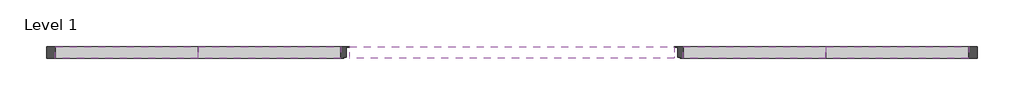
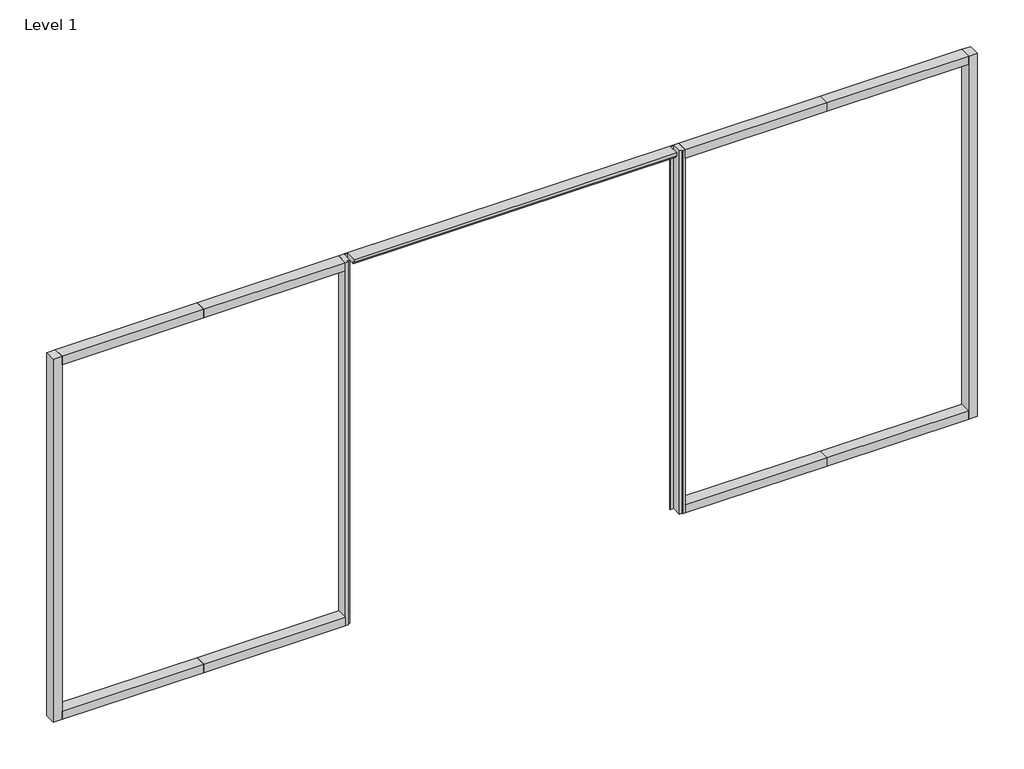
# One storey, incomplete: 13 members.
"""IFC4 building model written with IfcOpenShell, lengths in millimetres."""

from ifc_helpers import new_model, si_unit, origin, place, context, project, spatial, transform, mapped, element, save
from components import rectangular_mullion_801593ba, rectangular_mullion_9e581753, rectangular_mullion_f07b3b6d, rectangular_mullion_19f6ccb2, rectangular_mullion_ab93fa10

model = new_model("IFC4")

# Units and contexts
model_context = context("Model", 3, world=origin())
ifc_project = project(units=[si_unit("LENGTHUNIT", "METRE", prefix="MILLI")], contexts=[model_context])

# Site, building, storey
site = spatial("IfcSite", under=ifc_project)
building = spatial("IfcBuilding", under=site)
storey = spatial("IfcBuildingStorey", under=building, Name="Level 1", Elevation=0.0)

# Members
placement = place(None, origin())
rectangular_mullion_shape = rectangular_mullion_801593ba(model_context)
element("IfcMember", 1, ObjectType="Rectangular Mullion : MCGRORY - Forster Fuego Light - 60 Min Rated - Side Mullion B", at=placement, inside=storey, context=model_context, shape_type="MappedRepresentation", body=[
    mapped(rectangular_mullion_shape, transform((11331.7627373, 2096.1630076, 0.0), x_axis=(0.0, 0.0, -1.0), y_axis=(0.0, 1.0, 0.0), z_axis=(1.0, 0.0, 0.0))),
])
element("IfcMember", 2, ObjectType="Rectangular Mullion : MCGRORY - Forster Fuego Light - 60 Min Rated - Side Mullion B", at=placement, inside=storey, context=model_context, shape_type="MappedRepresentation", body=[
    mapped(rectangular_mullion_shape, transform((7818.7539884, 2096.1630076, 0.0), x_axis=(0.0, 0.0, -1.0), y_axis=(0.0, 1.0, 0.0), z_axis=(1.0, 0.0, 0.0))),
])
element("IfcMember", 3, ObjectType="Rectangular Mullion : MCGRORY - Forster Fuego Light - 60 Min Rated - Side Mullion B", at=placement, inside=storey, context=model_context, shape_type="MappedRepresentation", body=[
    mapped(rectangular_mullion_shape, transform((10533.7452395, 2096.1630076, 0.0), x_axis=(0.0, 0.0, -1.0), y_axis=(0.0, 1.0, 0.0), z_axis=(1.0, 0.0, 0.0))),
])
element("IfcMember", 4, ObjectType="Rectangular Mullion : MCGRORY - Forster Fuego Light - 60 Min Rated - Side Mullion B", at=placement, inside=storey, context=model_context, shape_type="MappedRepresentation", body=[
    mapped(rectangular_mullion_shape, transform((7020.7364906, 2096.1630076, 0.0), x_axis=(0.0, 0.0, -1.0), y_axis=(0.0, 1.0, 0.0), z_axis=(1.0, 0.0, 0.0))),
])
element("IfcMember", 5, ObjectType="Rectangular Mullion : MCGRORY - Forster Fuego Light - 60 Min Rated - Side Mullion A", at=placement, inside=storey, context=model_context, shape_type="MappedRepresentation", body=[
    mapped(rectangular_mullion_shape, transform((6222.7189928, 2096.1630076, 2163.6), x_axis=(0.0, 0.0, 1.0), y_axis=(0.0, 1.0, 0.0), z_axis=(-1.0, 0.0, 0.0))),
])
element("IfcMember", 6, ObjectType="Rectangular Mullion : MCGRORY - Forster Fuego Light - 60 Min Rated - Side Mullion A", at=placement, inside=storey, context=model_context, shape_type="MappedRepresentation", body=[
    mapped(rectangular_mullion_shape, transform((9735.7277417, 2096.1630076, 2163.6), x_axis=(0.0, 0.0, 1.0), y_axis=(0.0, 1.0, 0.0), z_axis=(-1.0, 0.0, 0.0))),
])
element("IfcMember", 7, ObjectType="Rectangular Mullion : MCGRORY - Forster Fuego Light - 60 Min Rated - Side Mullion A", at=placement, inside=storey, context=model_context, shape_type="MappedRepresentation", body=[
    mapped(rectangular_mullion_shape, transform((10533.7452395, 2096.1630076, 2163.6), x_axis=(0.0, 0.0, 1.0), y_axis=(0.0, 1.0, 0.0), z_axis=(-1.0, 0.0, 0.0))),
])
element("IfcMember", 8, ObjectType="Rectangular Mullion : MCGRORY - Forster Fuego Light - 60 Min Rated - Side Mullion A", at=placement, inside=storey, context=model_context, shape_type="MappedRepresentation", body=[
    mapped(rectangular_mullion_shape, transform((7020.7364906, 2096.1630076, 2163.6), x_axis=(0.0, 0.0, 1.0), y_axis=(0.0, 1.0, 0.0), z_axis=(-1.0, 0.0, 0.0))),
])
rectangular_mullion_2_shape = rectangular_mullion_9e581753(model_context)
element("IfcMember", 9, ObjectType="Rectangular Mullion : MCGRORY - Forster Fuego Light - 60 Min Rated - Door Mullion Top", at=placement, inside=storey, context=model_context, shape_type="MappedRepresentation", body=[
    mapped(rectangular_mullion_2_shape, transform((7868.7321161, 2096.1630076, 2163.6), x_axis=(0.0, 0.0, 1.0), y_axis=(0.0, 1.0, 0.0), z_axis=(-1.0, 0.0, 0.0))),
])
rectangular_mullion_3_shape = rectangular_mullion_f07b3b6d(model_context)
element("IfcMember", 10, ObjectType="Rectangular Mullion : MCGRORY - Forster Fuego Light - 60 Min Rated - Door Mullion A Middle", at=placement, inside=storey, context=model_context, shape_type="MappedRepresentation", body=[
    mapped(rectangular_mullion_3_shape, transform((7843.7430523, 2096.1630076, 0.0), x_axis=(-1.0, 0.0, 0.0), y_axis=(0.0, 1.0, 0.0), z_axis=(0.0, 0.0, -1.0))),
])
rectangular_mullion_4_shape = rectangular_mullion_19f6ccb2(model_context)
element("IfcMember", 11, ObjectType="Rectangular Mullion : MCGRORY - Forster Fuego Light - 60 Min Rated - Door Mullion B Middle", at=placement, inside=storey, context=model_context, shape_type="MappedRepresentation", body=[
    mapped(rectangular_mullion_4_shape, transform((9710.7386778, 2096.1630076, 0.0), x_axis=(-1.0, 0.0, 0.0), y_axis=(0.0, 1.0, 0.0), z_axis=(0.0, 0.0, -1.0))),
])
rectangular_mullion_5_shape = rectangular_mullion_ab93fa10(model_context)
element("IfcMember", 12, ObjectType="Rectangular Mullion : MCGRORY - Forster Fuego Light - 60 Min Rated - Side Mullion A", at=placement, inside=storey, context=model_context, shape_type="MappedRepresentation", body=[
    mapped(rectangular_mullion_5_shape, transform((6172.7408651, 2096.1630076, 0.0), x_axis=(-1.0, 0.0, 0.0), y_axis=(0.0, 1.0, 0.0), z_axis=(0.0, 0.0, -1.0))),
])
element("IfcMember", 13, ObjectType="Rectangular Mullion : MCGRORY - Forster Fuego Light - 60 Min Rated - Side Mullion B", at=placement, inside=storey, context=model_context, shape_type="MappedRepresentation", body=[
    mapped(rectangular_mullion_5_shape, transform((11381.7408651, 2096.1630076, 2163.6), x_axis=(1.0, 0.0, 0.0), y_axis=(0.0, 1.0, 0.0), z_axis=(0.0, 0.0, 1.0))),
])

save(model, "model.ifc")
